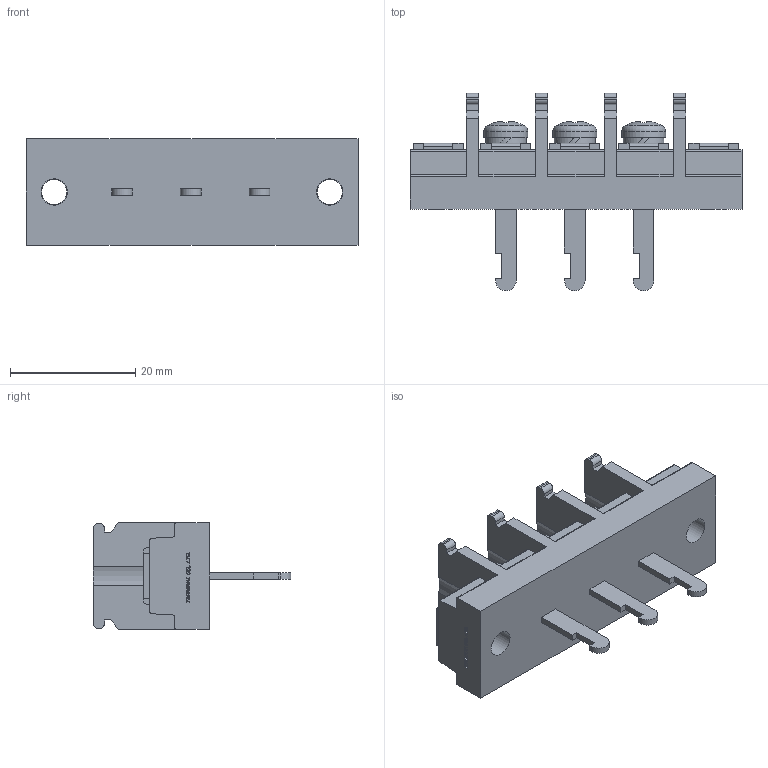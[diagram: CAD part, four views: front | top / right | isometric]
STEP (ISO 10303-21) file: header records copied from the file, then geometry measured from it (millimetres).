
FILE_DESCRIPTION(/* description */ ('Alibre Inc.'),/* implementation_level */ '2;1');
FILE_NAME(/* name */ 'export0',/* time_stamp */ '2015-10-19T19:57:22+09:00',/* author */ (''),/* organization */ (''),/* preprocessor_version */ 'ST-DEVELOPER v14',/* originating_system */ 'Alibre',/* authorisation */ '');
FILE_SCHEMA (('CONFIG_CONTROL_DESIGN'));
Length unit declared in the file: centimetre
Products named in the file (1): ID_1
Bounding box: 53 x 31.5 x 17 mm (x, y, z)
Volume: 9287 mm3; surface area: 5609.7 mm2
Topology: 1 solids, 1 shells, 681 faces, 1871 edges, 1245 vertices
Faces by surface type: plane 486, bspline 104, cylinder 70, cone 12, torus 6, sphere 3
Full cylindrical faces by diameter (mm): 4 x5, 4.2 x2, 6.5 x3, 7 x3
Entity records: 20960 total; most frequent: CARTESIAN_POINT 4766, ORIENTED_EDGE 3688, DIRECTION 2483, EDGE_CURVE 1844, VECTOR 1372, LINE 1372, VERTEX_POINT 1234, AXIS2_PLACEMENT_3D 792
